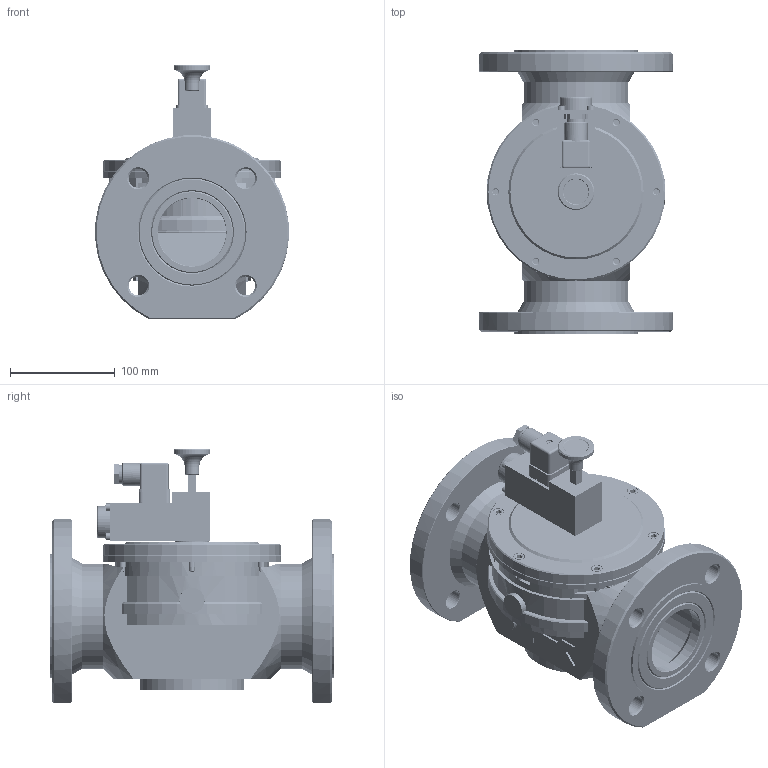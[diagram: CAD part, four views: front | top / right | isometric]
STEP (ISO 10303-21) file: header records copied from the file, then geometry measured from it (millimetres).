
FILE_DESCRIPTION( ( 'Unknown' ), '1' );
FILE_NAME( 'D:/Wyroby/Widoki gabarytowe/Zawory ZB/ZB_65k/ZB_65k.stp', 'Unknown', ( 'Unknown' ), ( 'Unknown' ), 'XStep 1.0', 'Unknown', ' ' );
FILE_SCHEMA( ( 'CONFIG_CONTROL_DESIGN' ) );
Length unit declared in the file: millimetre
Products named in the file (73): Wa_110_01_02bez_korków; Wa_209_01_00; Wa_110_01_00; Z³¹cze_C18211G21; Wa_209_01_01; Gniazdo_wtykowe_B282; ElektromagnesZB_z_wtyczk¹; Assem1; Wa_108_01_01; Wa_209_01_01bez_ko³ka; Ko³ek 3x40; cokó³_gniazda_wtykowego_B282; Wk³adka; Blaszka_uziemienia; Blaszka_fazy; Uszczelka_coko³u; Obudowa; Kostka; Uszczelka; Wkrêt_M3x30; Œruba_d³awika; Uszczelka_d³awika; Wa_110_01_02bez_gniazda; Wa_053_01_01_001gotowe; Wa_108_01_01_001zaciœniety; Wa_053_01_02_002; Wa_053_01_02_003zaci從i黎a; Wa_209_02_00_008; Wa_209_02_00_007; Wa_209_01_00_001; Wa_209_01_00_002; Wa_209_01_00_003; Wa_209_01_00_004; Wa_209_01_00_005; W-039M3x9; Wa_209_01_00_007; ImbusM4x65; Wa_209_01_00_006彡i從i黎a7; Wa_209_01_00_011; Uzwojenie_Wa_209_01_02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
Bounding box: 184.67 x 270 x 242.5 mm (x, y, z)
Volume: 1732583.4 mm3; surface area: 2294852.2 mm2
Topology: 241 solids, 245 shells, 4794 faces, 11352 edges, 7412 vertices
Faces by surface type: plane 2776, cylinder 1309, cone 547, torus 123, sphere 29, bspline 10
Full cylindrical faces by diameter (mm): 1.6 x8, 2 x6, 2.1 x8, 2.459 x13, 2.5 x6, 3 x28, 3.2 x16, 3.242 x12, 3.5 x20, 4 x31, 4.1 x3, 4.5 x26, 4.917 x27, 5 x20, 5.2 x4, 5.5 x30, 5.9 x3, 6 x37, 6.1 x3, 6.5 x10, 6.6 x18, 6.647 x3, 7 x26, 7.5 x5, 8 x20, 8.4 x4, 9 x8, 10 x18, 10.917 x3, 11 x23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
Entity records: 39185 total; most frequent: CARTESIAN_POINT 10584, DIRECTION 5398, ORIENTED_EDGE 4394, EDGE_CURVE 2197, AXIS2_PLACEMENT_3D 2075, EDGE_LOOP 1844, VERTEX_POINT 1665, FACE_OUTER_BOUND 1448
